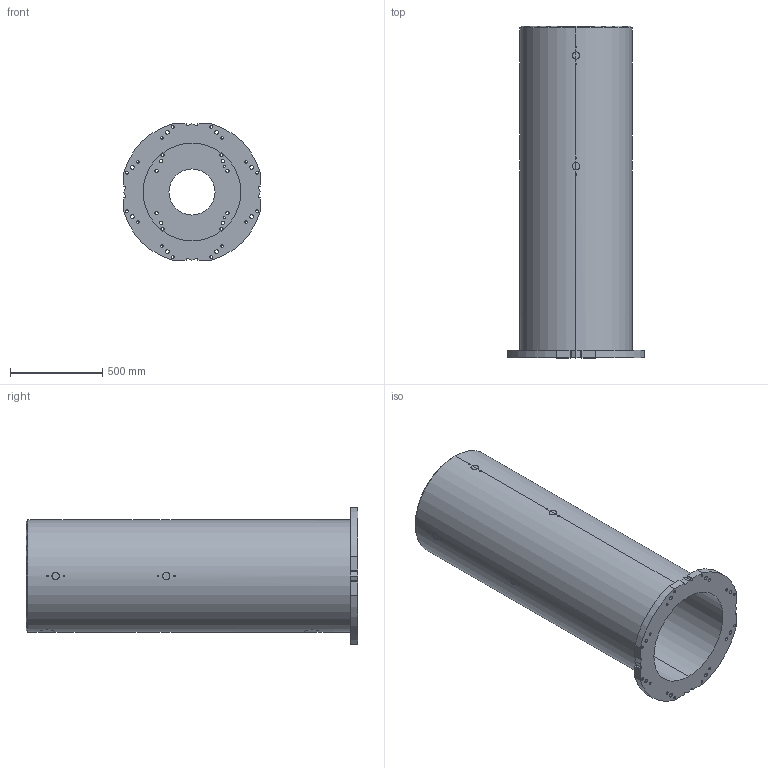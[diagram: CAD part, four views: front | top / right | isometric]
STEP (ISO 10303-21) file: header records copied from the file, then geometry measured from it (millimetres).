
FILE_DESCRIPTION (( 'STEP AP214' ), '1' );
FILE_NAME ('M-1800.STEP', '2025-12-09T14:51:15', ( '' ), ( '' ), 'SwSTEP 2.0', 'SolidWorks 2022', '' );
FILE_SCHEMA (( 'AUTOMOTIVE_DESIGN' ));
Length unit declared in the file: millimetre
Products named in the file (1): M-1800
Bounding box: 740 x 1800 x 740 mm (x, y, z)
Volume: 141347168.5 mm3; surface area: 7303248.2 mm2
Topology: 1 solids, 1 shells, 254 faces, 668 edges, 432 vertices
Faces by surface type: cylinder 188, bspline 32, plane 28, cone 6
Entity records: 16073 total; most frequent: CARTESIAN_POINT 8967, ORIENTED_EDGE 1328, DIRECTION 1124, EDGE_CURVE 664, AXIS2_PLACEMENT_3D 437, VERTEX_POINT 432, EDGE_LOOP 352, ADVANCED_FACE 254
